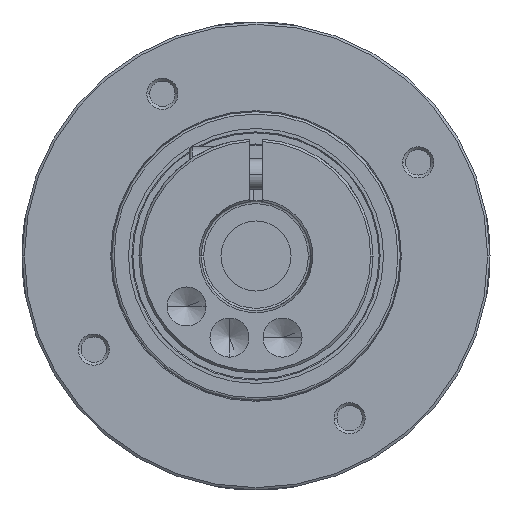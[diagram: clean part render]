
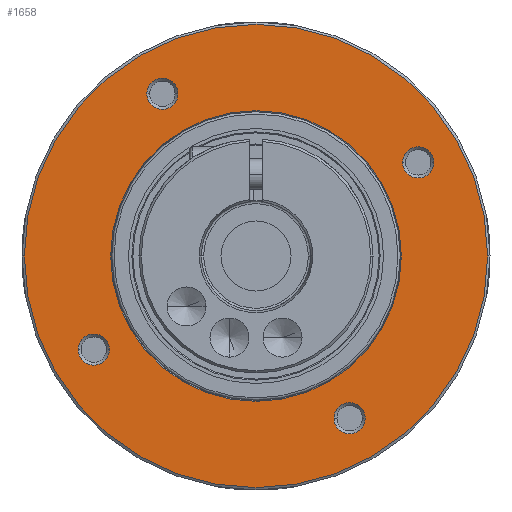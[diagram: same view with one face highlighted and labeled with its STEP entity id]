
A CAD part, left-side view. The second image highlights one B-rep face of the part: STEP entity #1658.
In plain terms, the highlighted planar face has unit normal (-1, 0, 0).
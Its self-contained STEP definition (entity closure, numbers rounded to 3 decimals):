
#84 = AXIS2_PLACEMENT_3D ( 'NONE', #20175, #29206, #4456 ) ;
#96 = CARTESIAN_POINT ( 'NONE',  ( -57.75, 18.634, 0. ) ) ;
#433 = EDGE_CURVE ( 'NONE', #3718, #18998, #19498, .T. ) ;
#1253 = EDGE_CURVE ( 'NONE', #4787, #18545, #13896, .T. ) ;
#1658 = ADVANCED_FACE ( 'NONE', ( #20635, #18385, #16031, #24906, #22864, #17938 ), #4608, .T. ) ;
#2021 = AXIS2_PLACEMENT_3D ( 'NONE', #16110, #7218, #27970 ) ;
#2293 = DIRECTION ( 'NONE',  ( 0., 1., 0. ) ) ;
#2367 = DIRECTION ( 'NONE',  ( 0., 1., 0. ) ) ;
#2580 = CIRCLE ( 'NONE', #12072, 2. ) ;
#3096 = CARTESIAN_POINT ( 'NONE',  ( -57.75, -20.785, 12. ) ) ;
#3462 = DIRECTION ( 'NONE',  ( 1., 0., 0. ) ) ;
#3658 = CARTESIAN_POINT ( 'NONE',  ( -57.75, -22.785, 12. ) ) ;
#3718 = VERTEX_POINT ( 'NONE', #96 ) ;
#3725 = DIRECTION ( 'NONE',  ( 1., 0., 0. ) ) ;
#4166 = ORIENTED_EDGE ( 'NONE', *, *, #25428, .T. ) ;
#4420 = EDGE_LOOP ( 'NONE', ( #15700, #6760 ) ) ;
#4445 = DIRECTION ( 'NONE',  ( 1., 0., 0. ) ) ;
#4456 = DIRECTION ( 'NONE',  ( 0., 1., 0. ) ) ;
#4551 = EDGE_CURVE ( 'NONE', #6493, #20101, #8412, .T. ) ;
#4608 = PLANE ( 'NONE',  #11250 ) ;
#4787 = VERTEX_POINT ( 'NONE', #24898 ) ;
#5086 = EDGE_LOOP ( 'NONE', ( #6946, #24738 ) ) ;
#5208 = CARTESIAN_POINT ( 'NONE',  ( -57.75, 0., 0. ) ) ;
#6275 = CARTESIAN_POINT ( 'NONE',  ( -57.75, 0., 0. ) ) ;
#6493 = VERTEX_POINT ( 'NONE', #26253 ) ;
#6760 = ORIENTED_EDGE ( 'NONE', *, *, #13440, .T. ) ;
#6939 = AXIS2_PLACEMENT_3D ( 'NONE', #15437, #3725, #26577 ) ;
#6946 = ORIENTED_EDGE ( 'NONE', *, *, #25760, .F. ) ;
#6984 = CARTESIAN_POINT ( 'NONE',  ( -57.75, 0., -18.634 ) ) ;
#7008 = VERTEX_POINT ( 'NONE', #26222 ) ;
#7125 = DIRECTION ( 'NONE',  ( 0., 1., 0. ) ) ;
#7218 = DIRECTION ( 'NONE',  ( 1., 0., 0. ) ) ;
#7293 = DIRECTION ( 'NONE',  ( 1., 0., 0. ) ) ;
#7445 = DIRECTION ( 'NONE',  ( 0., 1., 0. ) ) ;
#8412 = CIRCLE ( 'NONE', #12650, 2. ) ;
#9501 = AXIS2_PLACEMENT_3D ( 'NONE', #3096, #25505, #21221 ) ;
#10030 = AXIS2_PLACEMENT_3D ( 'NONE', #5208, #18259, #7445 ) ;
#10080 = EDGE_CURVE ( 'NONE', #24915, #19538, #21327, .T. ) ;
#11032 = ORIENTED_EDGE ( 'NONE', *, *, #4551, .T. ) ;
#11238 = EDGE_CURVE ( 'NONE', #15276, #24573, #2580, .T. ) ;
#11250 = AXIS2_PLACEMENT_3D ( 'NONE', #6984, #11468, #7125 ) ;
#11298 = CARTESIAN_POINT ( 'NONE',  ( -57.75, 18.785, -12. ) ) ;
#11468 = DIRECTION ( 'NONE',  ( -1., 0., 0. ) ) ;
#11474 = ORIENTED_EDGE ( 'NONE', *, *, #433, .T. ) ;
#11523 = CARTESIAN_POINT ( 'NONE',  ( -57.75, -14., -20.785 ) ) ;
#11546 = AXIS2_PLACEMENT_3D ( 'NONE', #6275, #24802, #22292 ) ;
#11552 = CARTESIAN_POINT ( 'NONE',  ( -57.75, -29.7, 0. ) ) ;
#12072 = AXIS2_PLACEMENT_3D ( 'NONE', #24751, #4445, #2367 ) ;
#12650 = AXIS2_PLACEMENT_3D ( 'NONE', #18870, #23023, #18721 ) ;
#12918 = EDGE_CURVE ( 'NONE', #7008, #14348, #27832, .T. ) ;
#13440 = EDGE_CURVE ( 'NONE', #19538, #24915, #19705, .T. ) ;
#13536 = CARTESIAN_POINT ( 'NONE',  ( -57.75, 12., 20.785 ) ) ;
#13787 = EDGE_LOOP ( 'NONE', ( #11474, #14848 ) ) ;
#13896 = CIRCLE ( 'NONE', #16747, 29.7 ) ;
#14348 = VERTEX_POINT ( 'NONE', #11523 ) ;
#14669 = DIRECTION ( 'NONE',  ( 1., 0., 0. ) ) ;
#14804 = CIRCLE ( 'NONE', #2021, 2. ) ;
#14848 = ORIENTED_EDGE ( 'NONE', *, *, #17739, .T. ) ;
#15003 = AXIS2_PLACEMENT_3D ( 'NONE', #15673, #14669, #26109 ) ;
#15276 = VERTEX_POINT ( 'NONE', #23528 ) ;
#15437 = CARTESIAN_POINT ( 'NONE',  ( -57.75, 20.785, -12. ) ) ;
#15673 = CARTESIAN_POINT ( 'NONE',  ( -57.75, -12., -20.785 ) ) ;
#15700 = ORIENTED_EDGE ( 'NONE', *, *, #10080, .T. ) ;
#16031 = FACE_BOUND ( 'NONE', #28446, .T. ) ;
#16110 = CARTESIAN_POINT ( 'NONE',  ( -57.75, -12., -20.785 ) ) ;
#16618 = CIRCLE ( 'NONE', #10030, 18.634 ) ;
#16747 = AXIS2_PLACEMENT_3D ( 'NONE', #24214, #3462, #19758 ) ;
#17021 = ORIENTED_EDGE ( 'NONE', *, *, #22968, .T. ) ;
#17739 = EDGE_CURVE ( 'NONE', #18998, #3718, #16618, .T. ) ;
#17938 = FACE_OUTER_BOUND ( 'NONE', #5086, .T. ) ;
#18130 = ORIENTED_EDGE ( 'NONE', *, *, #18550, .T. ) ;
#18209 = CARTESIAN_POINT ( 'NONE',  ( -57.75, 14., 20.785 ) ) ;
#18259 = DIRECTION ( 'NONE',  ( 1., 0., 0. ) ) ;
#18385 = FACE_BOUND ( 'NONE', #4420, .T. ) ;
#18545 = VERTEX_POINT ( 'NONE', #11552 ) ;
#18550 = EDGE_CURVE ( 'NONE', #14348, #7008, #14804, .T. ) ;
#18721 = DIRECTION ( 'NONE',  ( 0., 1., 0. ) ) ;
#18870 = CARTESIAN_POINT ( 'NONE',  ( -57.75, 12., 20.785 ) ) ;
#18998 = VERTEX_POINT ( 'NONE', #19121 ) ;
#19071 = AXIS2_PLACEMENT_3D ( 'NONE', #13536, #22482, #2293 ) ;
#19121 = CARTESIAN_POINT ( 'NONE',  ( -57.75, -18.634, 0. ) ) ;
#19498 = CIRCLE ( 'NONE', #84, 18.634 ) ;
#19538 = VERTEX_POINT ( 'NONE', #11298 ) ;
#19705 = CIRCLE ( 'NONE', #6939, 2. ) ;
#19758 = DIRECTION ( 'NONE',  ( 0., -1., 0. ) ) ;
#20101 = VERTEX_POINT ( 'NONE', #18209 ) ;
#20175 = CARTESIAN_POINT ( 'NONE',  ( -57.75, 0., 0. ) ) ;
#20506 = CARTESIAN_POINT ( 'NONE',  ( -57.75, 20.785, -12. ) ) ;
#20635 = FACE_BOUND ( 'NONE', #13787, .T. ) ;
#21221 = DIRECTION ( 'NONE',  ( 0., 1., 0. ) ) ;
#21327 = CIRCLE ( 'NONE', #25081, 2. ) ;
#22239 = CIRCLE ( 'NONE', #9501, 2. ) ;
#22292 = DIRECTION ( 'NONE',  ( 0., -1., 0. ) ) ;
#22482 = DIRECTION ( 'NONE',  ( 1., 0., 0. ) ) ;
#22864 = FACE_BOUND ( 'NONE', #27748, .T. ) ;
#22968 = EDGE_CURVE ( 'NONE', #24573, #15276, #22239, .T. ) ;
#23023 = DIRECTION ( 'NONE',  ( 1., 0., 0. ) ) ;
#23528 = CARTESIAN_POINT ( 'NONE',  ( -57.75, -18.785, 12. ) ) ;
#23626 = ORIENTED_EDGE ( 'NONE', *, *, #11238, .T. ) ;
#24214 = CARTESIAN_POINT ( 'NONE',  ( -57.75, 0., 0. ) ) ;
#24573 = VERTEX_POINT ( 'NONE', #3658 ) ;
#24738 = ORIENTED_EDGE ( 'NONE', *, *, #1253, .F. ) ;
#24751 = CARTESIAN_POINT ( 'NONE',  ( -57.75, -20.785, 12. ) ) ;
#24802 = DIRECTION ( 'NONE',  ( 1., 0., 0. ) ) ;
#24898 = CARTESIAN_POINT ( 'NONE',  ( -57.75, 29.7, 0. ) ) ;
#24906 = FACE_BOUND ( 'NONE', #27058, .T. ) ;
#24915 = VERTEX_POINT ( 'NONE', #27880 ) ;
#25081 = AXIS2_PLACEMENT_3D ( 'NONE', #20506, #7293, #27468 ) ;
#25428 = EDGE_CURVE ( 'NONE', #20101, #6493, #26625, .T. ) ;
#25505 = DIRECTION ( 'NONE',  ( 1., 0., 0. ) ) ;
#25760 = EDGE_CURVE ( 'NONE', #18545, #4787, #28534, .T. ) ;
#26109 = DIRECTION ( 'NONE',  ( 0., 1., 0. ) ) ;
#26222 = CARTESIAN_POINT ( 'NONE',  ( -57.75, -10., -20.785 ) ) ;
#26253 = CARTESIAN_POINT ( 'NONE',  ( -57.75, 10., 20.785 ) ) ;
#26577 = DIRECTION ( 'NONE',  ( 0., 1., 0. ) ) ;
#26625 = CIRCLE ( 'NONE', #19071, 2. ) ;
#27058 = EDGE_LOOP ( 'NONE', ( #23626, #17021 ) ) ;
#27468 = DIRECTION ( 'NONE',  ( 0., 1., 0. ) ) ;
#27748 = EDGE_LOOP ( 'NONE', ( #4166, #11032 ) ) ;
#27832 = CIRCLE ( 'NONE', #15003, 2. ) ;
#27880 = CARTESIAN_POINT ( 'NONE',  ( -57.75, 22.785, -12. ) ) ;
#27970 = DIRECTION ( 'NONE',  ( 0., 1., 0. ) ) ;
#28438 = ORIENTED_EDGE ( 'NONE', *, *, #12918, .T. ) ;
#28446 = EDGE_LOOP ( 'NONE', ( #28438, #18130 ) ) ;
#28534 = CIRCLE ( 'NONE', #11546, 29.7 ) ;
#29206 = DIRECTION ( 'NONE',  ( 1., 0., 0. ) ) ;
